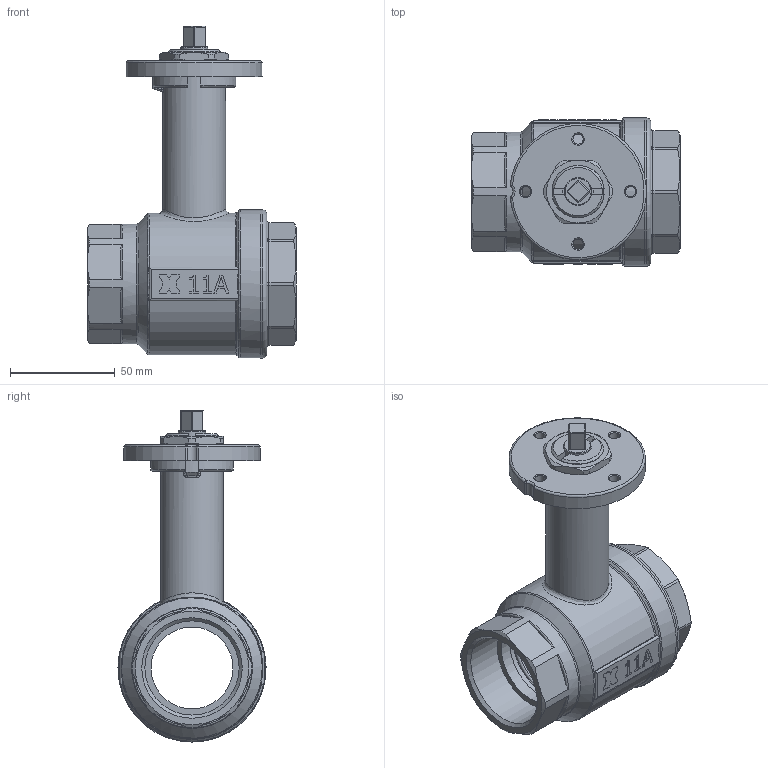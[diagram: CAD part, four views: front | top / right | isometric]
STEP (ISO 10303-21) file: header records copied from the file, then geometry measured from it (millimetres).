
FILE_DESCRIPTION((''),'2;1');
FILE_NAME('C:\Documents and Settings\ut4\Desktop\TICOM ULTIMATE\Art.109 PM SM PM SM.stp','2012-07-16T16:25:24',('ut4'),(''),'Autodesk Inventor 2013','Autodesk Inventor 2013','');
FILE_SCHEMA(('AUTOMOTIVE_DESIGN { 1 0 10303 214 1 1 1 1 }'));
Length unit declared in the file: millimetre
Products named in the file (14): Valvola a sfera mot. 112 art.109 PM SM; sfera 112; O-ring 45.69 x 2; Dischetto portamotore SM Ø25 lav; Dado blocca piastra SM3; Anello antigrip. perno mot. Ø20; Boccola antigrip. perno mot. Ø20; O-ring 15.08 x 2; Sede 112; Manic. femmina-deviatore 112 mot; Corpo prolunga mot. 112; Perno mot. prolunga corto 20 q8; Tubetto prolunga mot; Ghiera ferma asta mot. 25 prolunga
Assembly tree (17 placements, depth 2):
  Valvola a sfera mot. 112 art.109 PM SM
    sfera 112
    O-ring 45.69 x 2  x2
    Dischetto portamotore SM Ø25 lav
    Dado blocca piastra SM3
    Anello antigrip. perno mot. Ø20
    Boccola antigrip. perno mot. Ø20  x2
    O-ring 15.08 x 2  x2
    Sede 112  x2
    Manic. femmina-deviatore 112 mot
    Corpo prolunga mot. 112
    Perno mot. prolunga corto 20 q8
    Tubetto prolunga mot
    Ghiera ferma asta mot. 25 prolunga
Bounding box: 99.5 x 70.5 x 158.1 mm (x, y, z)
Volume: 145904.8 mm3; surface area: 114336.4 mm2
Topology: 16 solids, 17 shells, 603 faces, 1471 edges, 916 vertices
Faces by surface type: plane 265, cylinder 152, torus 68, cone 60, bspline 39, sphere 19
Full cylindrical faces by diameter (mm): 4.917 x4, 13 x1, 13.2 x3, 14.8 x2, 15 x2, 16 x1, 16.1 x2, 16.3 x2, 19.9 x3, 20 x4, 20.1 x1, 23 x1, 23.3 x1, 23.5 x2, 25 x2, 30 x1, 39 x3, 40 x2, 44.85 x1, 45 x1, 45.6 x2, 51 x4, 57 x1, 61.5 x1, 63 x1, 63.3 x1, 70.5 x2
Entity records: 18285 total; most frequent: CARTESIAN_POINT 4368, DIRECTION 2716, ORIENTED_EDGE 2626, EDGE_CURVE 1313, AXIS2_PLACEMENT_3D 1041, VERTEX_POINT 874, EDGE_LOOP 739, VECTOR 634
